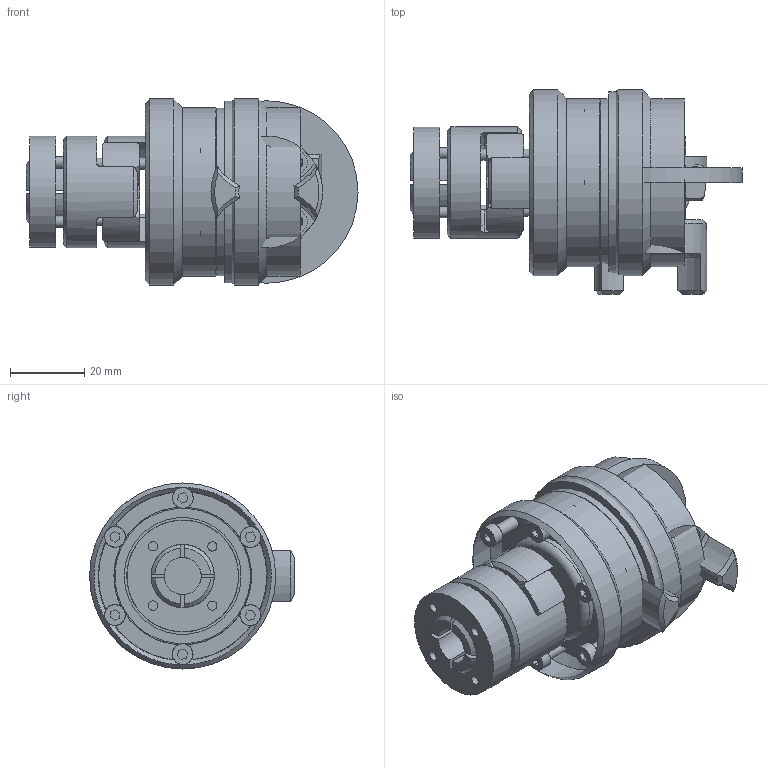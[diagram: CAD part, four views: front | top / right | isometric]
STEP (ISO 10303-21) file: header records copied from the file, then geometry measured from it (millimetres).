
FILE_DESCRIPTION( ( 'Unknown' ), '1' );
FILE_NAME( 'C:/Dokumente und Einstellungen/Sven/Desktop/hp kbk/E-AI/KBK EAI 14-73.stp', 'Unknown', ( 'Unknown' ), ( 'Unknown' ), 'XStep 1.0', 'Unknown', ' ' );
FILE_SCHEMA( ( 'automotive_design' ) );
Length unit declared in the file: millimetre
Products named in the file (19): Assem1; Assem2; Assem3; ball_bearing_-_61904_0_01_0; ball_bearing_-_61904_0_02_0; ball_bearing_-_61904_0_03_0; Zylinderschraube DIN 912_0; Stellring 10_0; Druckring 10_0; a_20_0; Flansch L-LL10_0; Elastomerflansch EK 10_0; Zahnkranz_14_Standard_0; KBE 3 - 14_Nabe; KBE3-14_Druckring_0; ISO EN DIN 4762_M3x12; KBK L-I-10 Grundkörper_0; Konusbuchse KBK 10_0; din_en_24017_m3x12_0
Bounding box: 89.2 x 55 x 50 mm (x, y, z)
Volume: 132132.2 mm3; surface area: 92740.6 mm2
Topology: 47 solids, 47 shells, 946 faces, 2098 edges, 1323 vertices
Faces by surface type: plane 399, cylinder 296, cone 201, torus 50
Full cylindrical faces by diameter (mm): 2 x4, 2.459 x28, 2.5 x12, 2.98 x5, 3 x31, 3.1 x8, 3.4 x12, 3.5 x8, 4.57 x5, 5 x5, 5.5 x8, 5.6 x12, 6 x12, 10 x6, 14 x2, 15 x2, 16 x2, 19 x2, 20 x7, 24 x4, 25 x4, 25.6 x6, 29 x2, 29.993 x2, 30 x6, 31.4 x6, 37 x7, 38 x2, 40 x2, 45 x2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
Entity records: 10028 total; most frequent: CARTESIAN_POINT 2043, DIRECTION 1714, ORIENTED_EDGE 1298, AXIS2_PLACEMENT_3D 782, EDGE_CURVE 649, EDGE_LOOP 576, VERTEX_POINT 475, FACE_OUTER_BOUND 458
